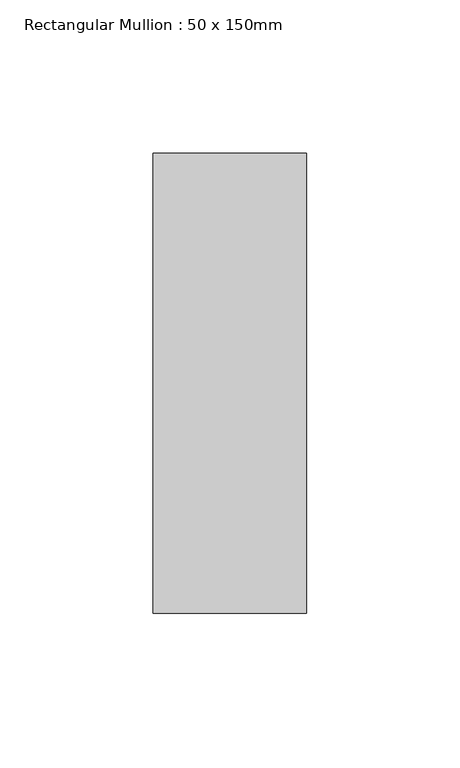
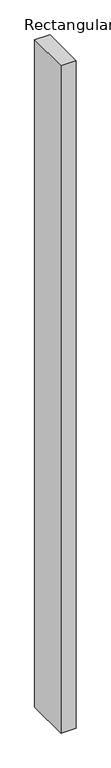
"""IFC4 building model written with IfcOpenShell, lengths in millimetres: member geometry, Rectangular Mullion : 50 x 150mm."""

from ifc_helpers import new_model, si_unit, frame, origin, place, context, project, spatial, polyline, outline, extrude, source, transform, mapped, element, save


def rectangular_mullion_50_x_150mm_2d7e4c86(model_context):
    return source(origin(), model_context, "Body", "SweptSolid", [
        extrude(outline(polyline([(25.0, 75.0), (25.0, -75.0), (-25.0, -75.0), (-25.0, 75.0), (25.0, 75.0)])), frame((0.0, 0.0, -2334.642103), z_axis=(0.0, 0.0, 1.0), x_axis=(1.0, 0.0, 0.0)), (0.0, 0.0, 1.0), 2334.642103),
    ])


if __name__ == "__main__":
    model = new_model("IFC4")
    model_context = context("Model", 3, world=origin())
    ifc_project = project(units=[si_unit("LENGTHUNIT", "METRE", prefix="MILLI")], contexts=[model_context])
    site = spatial("IfcSite", under=ifc_project)
    building = spatial("IfcBuilding", under=site)
    placement = place(None, origin())
    rectangular_mullion_50_x_150mm_shape = rectangular_mullion_50_x_150mm_2d7e4c86(model_context)
    element("IfcMember", 1, ObjectType="Rectangular Mullion : 50 x 150mm", at=placement, inside=building, context=model_context, shape_type="MappedRepresentation", body=[
        mapped(rectangular_mullion_50_x_150mm_shape, transform((0.0, 0.0, 0.0), x_axis=(1.0, 0.0, 0.0), y_axis=(0.0, 1.0, 0.0), z_axis=(0.0, 0.0, 1.0))),
    ])
    save(model, "model.ifc")
